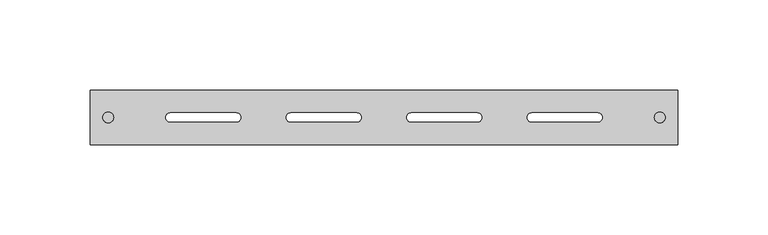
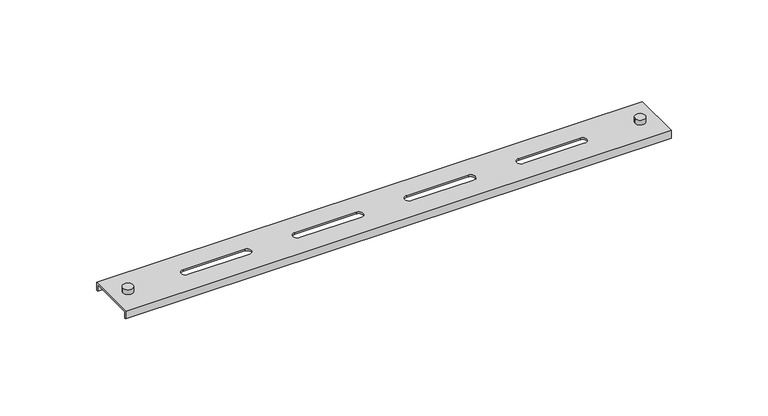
"""IFC4 building model written with IfcOpenShell, lengths in millimetres: cable carrier fitting geometry, CCT_Hyperline_FBTR_BAR_Подвес_для_оптического_лотка : Подвес для оптического лотка."""

from ifc_helpers import new_model, si_unit, point, frame, frame_2d, origin, place, context, project, spatial, polyline, circle_curve, trimmed, segment, composite_curve, outline, extrude, source, transform, mapped, element, save
from ifc_brep_helpers import plane_surface, revolved_surface, advanced_brep


def cable_carrier_fitting_1b5bf073(model_context):
    return source(origin(), model_context, "Body", "SolidModel", [
        extrude(outline(composite_curve([segment(trimmed(circle_curve(frame_2d((-152.6286976, 0.0)), 3.0), [point((-149.6286976, 0.0))], [point((-155.6286976, 0.0))], False, "CARTESIAN"), True, "CONTINUOUS"), segment(trimmed(circle_curve(frame_2d((-152.6286976, 0.0)), 3.0), [point((-155.6286976, 0.0))], [point((-149.6286976, 0.0))], False, "CARTESIAN"), True, "CONTINUOUS")], self_intersect=False)), frame((0.0, 0.0, 100.0), z_axis=(0.0, 0.0, 1.0), x_axis=(1.0, 0.0, 0.0)), (0.0, 0.0, 1.0), 3.0),
        extrude(outline(composite_curve([segment(trimmed(circle_curve(frame_2d((152.6286976, 0.0)), 3.0), [point((149.6286976, 0.0))], [point((155.6286976, 0.0))], False, "CARTESIAN"), True, "CONTINUOUS"), segment(trimmed(circle_curve(frame_2d((152.6286976, 0.0)), 3.0), [point((155.6286976, 0.0))], [point((149.6286976, 0.0))], False, "CARTESIAN"), True, "CONTINUOUS")], self_intersect=False)), frame((0.0, 0.0, 100.0), z_axis=(0.0, 0.0, 1.0), x_axis=(1.0, 0.0, 0.0)), (0.0, 0.0, 1.0), 3.0),
        advanced_brep(
        [(-162.5, -15.0, 100.0), (-162.5, 15.0, 100.0), (-162.5, 15.0, 95.0), (-162.5, 14.0, 95.0), (-162.5, 14.0, 99.0), (-162.5, -14.0, 99.0), (-162.5, -14.0, 95.0), (-162.5, -15.0, 95.0), (162.5, -15.0, 100.0), (162.5, 15.0, 100.0), (-51.6666667, 2.5, 100.0), (-15.0, 2.5, 100.0), (-15.0, -2.5, 100.0), (-51.6666667, -2.5, 100.0), (15.0, 2.5, 100.0), (51.6666667, 2.5, 100.0), (51.6666667, -2.5, 100.0), (15.0, -2.5, 100.0), (81.6666667, 2.5, 100.0), (118.3333333, 2.5, 100.0), (118.3333333, -2.5, 100.0), (81.6666667, -2.5, 100.0), (-118.3333333, 2.5, 100.0), (-81.6666667, 2.5, 100.0), (-81.6666667, -2.5, 100.0), (-118.3333333, -2.5, 100.0), (162.5, 14.0, 99.0), (162.5, -14.0, 99.0), (-15.0, 2.5, 99.0), (-51.6666667, 2.5, 99.0), (-51.6666667, -2.5, 99.0), (-15.0, -2.5, 99.0), (51.6666667, 2.5, 99.0), (15.0, 2.5, 99.0), (15.0, -2.5, 99.0), (51.6666667, -2.5, 99.0), (118.3333333, 2.5, 99.0), (81.6666667, 2.5, 99.0), (81.6666667, -2.5, 99.0), (118.3333333, -2.5, 99.0), (-81.6666667, 2.5, 99.0), (-118.3333333, 2.5, 99.0), (-118.3333333, -2.5, 99.0), (-81.6666667, -2.5, 99.0), (162.5, -14.0, 95.0), (162.5, -15.0, 95.0), (162.5, 14.0, 95.0), (162.5, 15.0, 95.0)],
        [
            (0, 1),
            (1, 2),
            (2, 3),
            (3, 4),
            (4, 5),
            (5, 6),
            (6, 7),
            (7, 0),
            (0, 8),
            (8, 9),
            (9, 1),
            (10, 11),
            (11, 12, circle_curve(frame((-15.0, 0.0, 100.0), z_axis=(0.0, 0.0, -1.0), x_axis=(1.0, 0.0, 0.0)), 2.5)),
            (12, 13),
            (13, 10, circle_curve(frame((-51.6666667, 0.0, 100.0), z_axis=(0.0, 0.0, -1.0), x_axis=(1.0, 0.0, 0.0)), 2.5)),
            (14, 15),
            (15, 16, circle_curve(frame((51.6666667, 0.0, 100.0), z_axis=(0.0, 0.0, -1.0), x_axis=(1.0, 0.0, 0.0)), 2.5)),
            (16, 17),
            (17, 14, circle_curve(frame((15.0, 0.0, 100.0), z_axis=(0.0, 0.0, -1.0), x_axis=(1.0, 0.0, 0.0)), 2.5)),
            (18, 19),
            (19, 20, circle_curve(frame((118.3333333, 0.0, 100.0), z_axis=(0.0, 0.0, -1.0), x_axis=(1.0, 0.0, 0.0)), 2.5)),
            (20, 21),
            (21, 18, circle_curve(frame((81.6666667, 0.0, 100.0), z_axis=(0.0, 0.0, -1.0), x_axis=(1.0, 0.0, 0.0)), 2.5)),
            (22, 23),
            (23, 24, circle_curve(frame((-81.6666667, 0.0, 100.0), z_axis=(0.0, 0.0, -1.0), x_axis=(1.0, 0.0, 0.0)), 2.5)),
            (24, 25),
            (25, 22, circle_curve(frame((-118.3333333, 0.0, 100.0), z_axis=(0.0, 0.0, -1.0), x_axis=(1.0, 0.0, 0.0)), 2.5)),
            (4, 26),
            (26, 27),
            (27, 5),
            (28, 29),
            (29, 30, circle_curve(frame((-51.6666667, 0.0, 99.0), z_axis=(0.0, 0.0, 1.0), x_axis=(1.0, 0.0, 0.0)), 2.5)),
            (30, 31),
            (31, 28, circle_curve(frame((-15.0, 0.0, 99.0), z_axis=(0.0, 0.0, 1.0), x_axis=(1.0, 0.0, 0.0)), 2.5)),
            (32, 33),
            (33, 34, circle_curve(frame((15.0, 0.0, 99.0), z_axis=(0.0, 0.0, 1.0), x_axis=(1.0, 0.0, 0.0)), 2.5)),
            (34, 35),
            (35, 32, circle_curve(frame((51.6666667, 0.0, 99.0), z_axis=(0.0, 0.0, 1.0), x_axis=(1.0, 0.0, 0.0)), 2.5)),
            (36, 37),
            (37, 38, circle_curve(frame((81.6666667, 0.0, 99.0), z_axis=(0.0, 0.0, 1.0), x_axis=(1.0, 0.0, 0.0)), 2.5)),
            (38, 39),
            (39, 36, circle_curve(frame((118.3333333, 0.0, 99.0), z_axis=(0.0, 0.0, 1.0), x_axis=(1.0, 0.0, 0.0)), 2.5)),
            (40, 41),
            (41, 42, circle_curve(frame((-118.3333333, 0.0, 99.0), z_axis=(0.0, 0.0, 1.0), x_axis=(1.0, 0.0, 0.0)), 2.5)),
            (42, 43),
            (43, 40, circle_curve(frame((-81.6666667, 0.0, 99.0), z_axis=(0.0, 0.0, 1.0), x_axis=(1.0, 0.0, 0.0)), 2.5)),
            (27, 44),
            (44, 6),
            (44, 45),
            (45, 7),
            (45, 8),
            (26, 46),
            (46, 47),
            (47, 9),
            (47, 2),
            (46, 3),
            (10, 29),
            (28, 11),
            (13, 30),
            (12, 31),
            (14, 33),
            (32, 15),
            (17, 34),
            (16, 35),
            (18, 37),
            (36, 19),
            (21, 38),
            (20, 39),
            (22, 41),
            (40, 23),
            (25, 42),
            (24, 43),
        ],
        [
            plane_surface(frame((-162.5, -60.0, 24.0), z_axis=(-1.0, 0.0, 0.0), x_axis=(0.0, 0.0, 1.0))),
            plane_surface(frame((-162.5, -15.0, 100.0), z_axis=(0.0, 0.0, 1.0), x_axis=(1.0, 0.0, 0.0))),
            plane_surface(frame((-162.5, 14.0, 99.0), z_axis=(0.0, 0.0, -1.0), x_axis=(1.0, 0.0, 0.0))),
            plane_surface(frame((-162.5, -14.0, 99.0), z_axis=(0.0, 1.0, 0.0), x_axis=(1.0, 0.0, 0.0))),
            plane_surface(frame((-162.5, -14.0, 95.0), z_axis=(0.0, 0.0, -1.0), x_axis=(1.0, 0.0, 0.0))),
            plane_surface(frame((-162.5, -15.0, 95.0), z_axis=(0.0, -1.0, 0.0), x_axis=(1.0, 0.0, 0.0))),
            plane_surface(frame((162.5, -60.0, 24.0), z_axis=(1.0, 0.0, 0.0), x_axis=(0.0, 0.0, 1.0))),
            plane_surface(frame((-162.5, 15.0, 100.0), z_axis=(0.0, 1.0, 0.0), x_axis=(1.0, 0.0, 0.0))),
            plane_surface(frame((-162.5, 15.0, 95.0), z_axis=(0.0, 0.0, -1.0), x_axis=(1.0, 0.0, 0.0))),
            plane_surface(frame((-162.5, 14.0, 95.0), z_axis=(0.0, -1.0, 0.0), x_axis=(1.0, 0.0, 0.0))),
            plane_surface(frame((-15.0, 2.5, 100.0), z_axis=(0.0, -1.0, 0.0), x_axis=(0.0, 0.0, -1.0))),
            revolved_surface(polyline([(-49.1666667, 0.0, 100.0), (-49.1666667, 0.0, 99.0)]), (-51.6666667, 0.0, 99.0), (0.0, 0.0, 1.0)),
            plane_surface(frame((-51.6666667, -2.5, 100.0), z_axis=(0.0, 1.0, 0.0), x_axis=(0.0, 0.0, -1.0))),
            revolved_surface(polyline([(-12.5, 0.0, 100.0), (-12.5, 0.0, 99.0)]), (-15.0, 0.0, 99.0), (0.0, 0.0, 1.0)),
            plane_surface(frame((51.6666667, 2.5, 100.0), z_axis=(0.0, -1.0, 0.0), x_axis=(0.0, 0.0, -1.0))),
            revolved_surface(polyline([(17.5, 0.0, 100.0), (17.5, 0.0, 99.0)]), (15.0, 0.0, 99.0), (0.0, 0.0, 1.0)),
            plane_surface(frame((15.0, -2.5, 100.0), z_axis=(0.0, 1.0, 0.0), x_axis=(0.0, 0.0, -1.0))),
            revolved_surface(polyline([(54.1666667, 0.0, 100.0), (54.1666667, 0.0, 99.0)]), (51.6666667, 0.0, 99.0), (0.0, 0.0, 1.0)),
            plane_surface(frame((118.3333333, 2.5, 100.0), z_axis=(0.0, -1.0, 0.0), x_axis=(0.0, 0.0, -1.0))),
            revolved_surface(polyline([(84.1666667, 0.0, 100.0), (84.1666667, 0.0, 99.0)]), (81.6666667, 0.0, 99.0), (0.0, 0.0, 1.0)),
            plane_surface(frame((81.6666667, -2.5, 100.0), z_axis=(0.0, 1.0, 0.0), x_axis=(0.0, 0.0, -1.0))),
            revolved_surface(polyline([(120.8333333, 0.0, 100.0), (120.8333333, 0.0, 99.0)]), (118.3333333, 0.0, 99.0), (0.0, 0.0, 1.0)),
            plane_surface(frame((-81.6666667, 2.5, 100.0), z_axis=(0.0, -1.0, 0.0), x_axis=(0.0, 0.0, -1.0))),
            revolved_surface(polyline([(-115.8333333, 0.0, 100.0), (-115.8333333, 0.0, 99.0)]), (-118.3333333, 0.0, 99.0), (0.0, 0.0, 1.0)),
            plane_surface(frame((-118.3333333, -2.5, 100.0), z_axis=(0.0, 1.0, 0.0), x_axis=(0.0, 0.0, -1.0))),
            revolved_surface(polyline([(-79.1666667, 0.0, 100.0), (-79.1666667, 0.0, 99.0)]), (-81.6666667, 0.0, 99.0), (0.0, 0.0, 1.0)),
        ],
        [
            (0, [[1, 2, 3, 4, 5, 6, 7, 8]]),
            (1, [[-1, 9, 10, 11], [12, 13, 14, 15], [16, 17, 18, 19], [20, 21, 22, 23], [24, 25, 26, 27]]),
            (2, [[-5, 28, 29, 30], [31, 32, 33, 34], [35, 36, 37, 38], [39, 40, 41, 42], [43, 44, 45, 46]]),
            (3, [[-6, -30, 47, 48]]),
            (4, [[-7, -48, 49, 50]]),
            (5, [[-8, -50, 51, -9]]),
            (6, [[-10, -51, -49, -47, -29, 52, 53, 54]]),
            (7, [[-2, -11, -54, 55]]),
            (8, [[-3, -55, -53, 56]]),
            (9, [[-4, -56, -52, -28]]),
            (10, [[57, -31, 58, -12]]),
            (11, [[-57, -15, 59, -32]]),
            (12, [[-59, -14, 60, -33]]),
            (13, [[-58, -34, -60, -13]]),
            (14, [[61, -35, 62, -16]]),
            (15, [[-61, -19, 63, -36]]),
            (16, [[-63, -18, 64, -37]]),
            (17, [[-62, -38, -64, -17]]),
            (18, [[65, -39, 66, -20]]),
            (19, [[-65, -23, 67, -40]]),
            (20, [[-67, -22, 68, -41]]),
            (21, [[-66, -42, -68, -21]]),
            (22, [[69, -43, 70, -24]]),
            (23, [[-69, -27, 71, -44]]),
            (24, [[-71, -26, 72, -45]]),
            (25, [[-70, -46, -72, -25]]),
        ],
    ),
    ])


if __name__ == "__main__":
    model = new_model("IFC4")
    model_context = context("Model", 3, world=origin())
    ifc_project = project(units=[si_unit("LENGTHUNIT", "METRE", prefix="MILLI")], contexts=[model_context])
    site = spatial("IfcSite", under=ifc_project)
    building = spatial("IfcBuilding", under=site)
    placement = place(None, origin())
    cable_carrier_fitting_shape = cable_carrier_fitting_1b5bf073(model_context)
    element("IfcCableCarrierFitting", 1, ObjectType="CCT_Hyperline_FBTR_BAR_Подвес_для_оптического_лотка : Подвес для оптического лотка", at=placement, inside=building, context=model_context, shape_type="MappedRepresentation", body=[
        mapped(cable_carrier_fitting_shape, transform((0.0, 0.0, 0.0), x_axis=(1.0, 0.0, 0.0), y_axis=(0.0, 1.0, 0.0), z_axis=(0.0, 0.0, 1.0))),
    ])
    save(model, "model.ifc")
